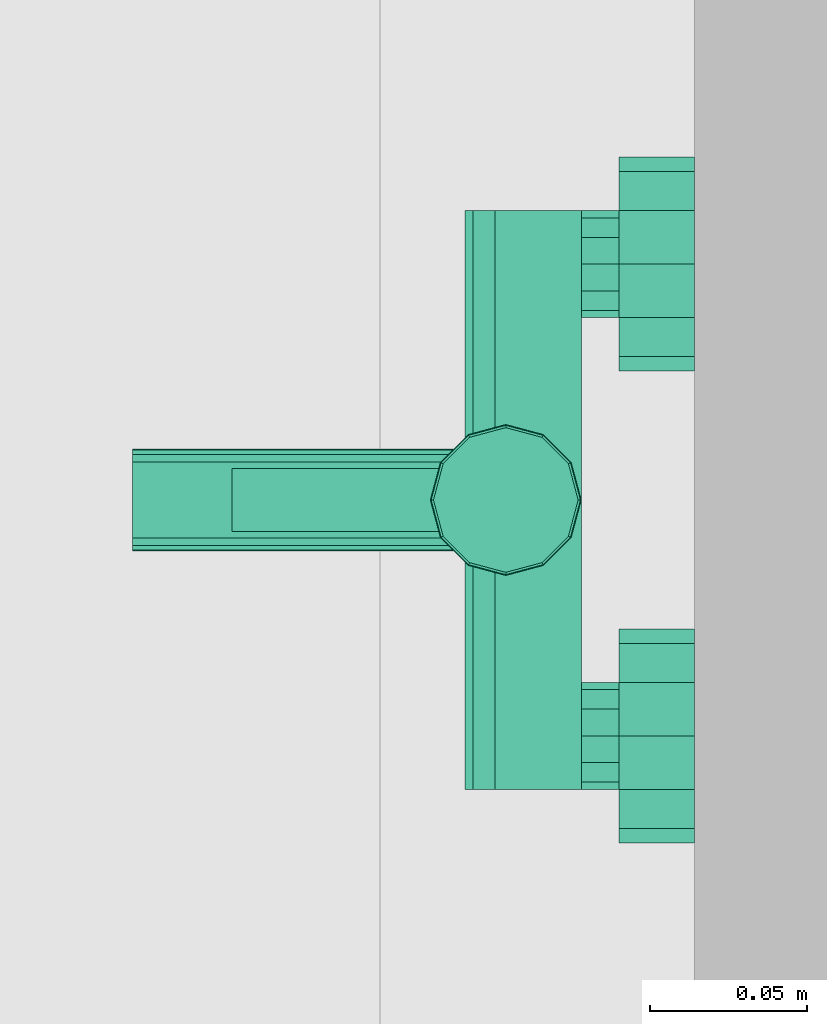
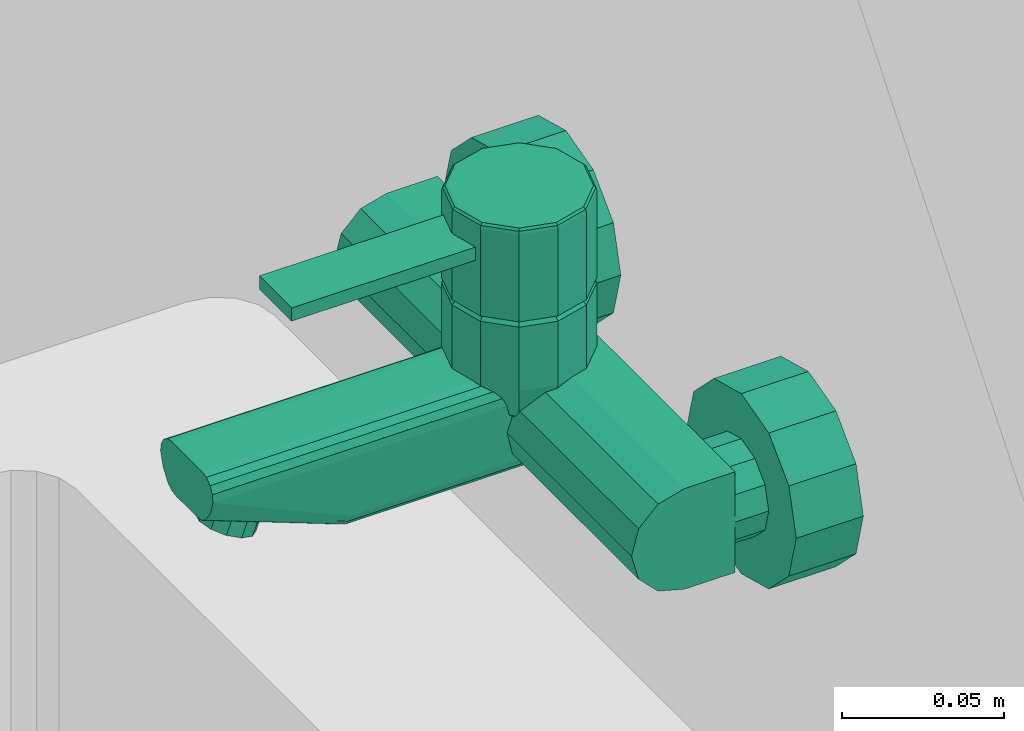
# One storey, part 248 of 301: 1 flow terminal.
"""IFC2X3 building model written with IfcOpenShell, lengths in millimetres."""

from ifc_helpers import new_model, entity, si_unit, converted_unit, derived_unit, money_unit, direction, frame, origin_with_axes, place, context, subcontext, project, spatial, faceted_brep, source, transform, mapped, type_object, element, save


model = new_model("IFC2X3")

# Units and contexts
model_context = context("Model", 3, precision=0.01, world=origin_with_axes(), true_north=direction((0.0, 1.0)))
body_context = subcontext(model_context, "Body", "Model", "MODEL_VIEW")
ifc_project = project(units=[si_unit("LENGTHUNIT", "METRE", prefix="MILLI"), si_unit("AREAUNIT", "SQUARE_METRE"), si_unit("VOLUMEUNIT", "CUBIC_METRE"), converted_unit("PLANEANGLEUNIT", "DEGREE", entity("IfcPlaneAngleMeasure", 0.0174532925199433), si_unit("PLANEANGLEUNIT", "RADIAN"), dimensions=[0, 0, 0, 0, 0, 0, 0]), money_unit("EUR"), converted_unit("TIMEUNIT", "Year", entity("IfcTimeMeasure", 31557600.0), si_unit("TIMEUNIT", "SECOND"), dimensions=[0, 0, 1, 0, 0, 0, 0]), si_unit("MASSUNIT", "GRAM", prefix="KILO"), si_unit("THERMODYNAMICTEMPERATUREUNIT", "DEGREE_CELSIUS"), si_unit("LUMINOUSINTENSITYUNIT", "LUMEN"), si_unit("ENERGYUNIT", "JOULE", prefix="MEGA"), derived_unit("THERMALCONDUCTANCEUNIT", [(si_unit("POWERUNIT", "WATT"), 1), (si_unit("LENGTHUNIT", "METRE"), -1), (si_unit("THERMODYNAMICTEMPERATUREUNIT", "KELVIN"), -1)]), derived_unit("SPECIFICHEATCAPACITYUNIT", [(si_unit("ENERGYUNIT", "JOULE"), 1), (si_unit("MASSUNIT", "GRAM", prefix="KILO"), -1), (si_unit("THERMODYNAMICTEMPERATUREUNIT", "KELVIN"), -1)]), derived_unit("MASSDENSITYUNIT", [(si_unit("MASSUNIT", "GRAM", prefix="KILO"), 1), (si_unit("VOLUMEUNIT", "CUBIC_METRE"), -1)])], contexts=[model_context])

# Site, building, storey
site_placement = place(None, frame((0.0, 0.0, 8650.0), z_axis=(0.0, 0.0, 1.0), x_axis=(1.0, 0.0, 0.0)))
site = spatial("IfcSite", under=ifc_project, at=site_placement, Name="43301:001:0844", CompositionType="ELEMENT")
building_placement = place(site_placement, origin_with_axes())
building = spatial("IfcBuilding", under=site, at=building_placement, Name="Kuressaare Ametikooli tuulikute mehaanikute õppekorpus", CompositionType="ELEMENT")
storey_placement = place(building_placement, origin_with_axes())
storey = spatial("IfcBuildingStorey", under=building, at=storey_placement, Name="1.korrus", CompositionType="ELEMENT", Elevation=0.0)

# Flow terminal
sanitary_terminal_type = type_object("IfcSanitaryTerminalType", Name="Wall Mounted Tap 27", PredefinedType="NOTDEFINED")
shared_shape = source(origin_with_axes(), body_context, "Body", "Brep", [
    faceted_brep([(-45.55513627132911, 0.0, 1033.0), (-58.00000000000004, 0.0, 1020.555136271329), (-75.00000000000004, 0.0, 1016.0), (-92.00000000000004, 0.0, 1020.555136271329), (-104.4448637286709, 0.0, 1033.0), (-109.0, 0.0, 1050.0), (-104.4448637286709, 0.0, 1067.0), (-92.0, 0.0, 1079.444863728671), (-75.0, 0.0, 1084.0), (-58.0, 0.0, 1079.444863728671), (-45.5551362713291, 0.0, 1067.0), (-41.00000000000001, 0.0, 1050.0), (-45.55513627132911, -24.0, 1033.0), (-58.00000000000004, -24.0, 1020.555136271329), (-75.00000000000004, -24.0, 1016.0), (-92.00000000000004, -24.0, 1020.555136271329), (-104.4448637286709, -24.0, 1033.0), (-109.0, -24.0, 1050.0), (-104.4448637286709, -24.0, 1067.0), (-92.0, -24.0, 1079.444863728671), (-75.0, -24.0, 1084.0), (-58.0, -24.0, 1079.444863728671), (-45.5551362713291, -24.0, 1067.0), (-41.00000000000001, -24.0, 1050.0)], [[[0, 1, 2, 3, 4, 5, 6, 7, 8, 9, 10, 11]], [[1, 0, 12, 13]], [[2, 1, 13, 14]], [[3, 2, 14, 15]], [[4, 3, 15, 16]], [[5, 4, 16, 17]], [[6, 5, 17, 18]], [[7, 6, 18, 19]], [[8, 7, 19, 20]], [[9, 8, 20, 21]], [[10, 9, 21, 22]], [[11, 10, 22, 23]], [[0, 11, 23, 12]], [[12, 23, 22, 21, 20, 19, 18, 17, 16, 15, 14, 13]]]),
    faceted_brep([(-60.27756813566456, -24.0, 1041.5), (-66.50000000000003, -24.0, 1035.277568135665), (-75.00000000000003, -24.0, 1033.0), (-83.50000000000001, -24.0, 1035.277568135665), (-89.72243186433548, -24.0, 1041.5), (-92.00000000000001, -24.0, 1050.0), (-89.72243186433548, -24.0, 1058.5), (-83.5, -24.0, 1064.722431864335), (-75.00000000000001, -24.0, 1067.0), (-66.5, -24.0, 1064.722431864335), (-60.27756813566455, -24.0, 1058.5), (-58.00000000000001, -24.0, 1050.0), (-60.27756813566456, -36.00000000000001, 1041.5), (-66.50000000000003, -36.00000000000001, 1035.277568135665), (-75.00000000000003, -36.00000000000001, 1033.0), (-83.50000000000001, -36.00000000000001, 1035.277568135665), (-89.72243186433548, -36.00000000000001, 1041.5), (-92.00000000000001, -36.00000000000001, 1050.0), (-89.72243186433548, -36.00000000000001, 1058.5), (-83.5, -36.0, 1064.722431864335), (-75.00000000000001, -36.0, 1067.0), (-66.5, -36.0, 1064.722431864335), (-60.27756813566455, -36.00000000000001, 1058.5), (-58.00000000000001, -36.00000000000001, 1050.0)], [[[0, 1, 2, 3, 4, 5, 6, 7, 8, 9, 10, 11]], [[1, 0, 12, 13]], [[2, 1, 13, 14]], [[3, 2, 14, 15]], [[4, 3, 15, 16]], [[5, 4, 16, 17]], [[6, 5, 17, 18]], [[7, 6, 18, 19]], [[8, 7, 19, 20]], [[9, 8, 20, 21]], [[10, 9, 21, 22]], [[11, 10, 22, 23]], [[0, 11, 23, 12]], [[12, 23, 22, 21, 20, 19, 18, 17, 16, 15, 14, 13]]]),
    faceted_brep([(45.55513627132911, 0.0, 1033.0), (41.00000000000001, 0.0, 1050.0), (45.5551362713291, 0.0, 1067.0), (58.0, 0.0, 1079.444863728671), (75.0, 0.0, 1084.0), (92.0, 0.0, 1079.444863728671), (104.4448637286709, 0.0, 1067.0), (109.0, 0.0, 1050.0), (104.4448637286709, 0.0, 1033.0), (92.00000000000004, 0.0, 1020.555136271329), (75.00000000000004, 0.0, 1016.0), (58.00000000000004, 0.0, 1020.555136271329), (45.55513627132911, -24.0, 1033.0), (41.00000000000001, -24.0, 1050.0), (45.5551362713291, -24.0, 1067.0), (58.0, -24.0, 1079.444863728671), (75.0, -24.0, 1084.0), (92.0, -24.0, 1079.444863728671), (104.4448637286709, -24.0, 1067.0), (109.0, -24.0, 1050.0), (104.4448637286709, -24.0, 1033.0), (92.00000000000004, -24.0, 1020.555136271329), (75.00000000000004, -24.0, 1016.0), (58.00000000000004, -24.0, 1020.555136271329)], [[[0, 1, 2, 3, 4, 5, 6, 7, 8, 9, 10, 11]], [[0, 12, 13, 1]], [[1, 13, 14, 2]], [[2, 14, 15, 3]], [[3, 15, 16, 4]], [[4, 16, 17, 5]], [[5, 17, 18, 6]], [[6, 18, 19, 7]], [[7, 19, 20, 8]], [[8, 20, 21, 9]], [[9, 21, 22, 10]], [[10, 22, 23, 11]], [[11, 23, 12, 0]], [[12, 23, 22, 21, 20, 19, 18, 17, 16, 15, 14, 13]]]),
    faceted_brep([(60.27756813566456, -24.0, 1041.5), (58.00000000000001, -24.0, 1050.0), (60.27756813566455, -24.0, 1058.5), (66.5, -24.0, 1064.722431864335), (75.00000000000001, -24.0, 1067.0), (83.5, -24.0, 1064.722431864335), (89.72243186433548, -24.0, 1058.5), (92.00000000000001, -24.0, 1050.0), (89.72243186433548, -24.0, 1041.5), (83.50000000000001, -24.0, 1035.277568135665), (75.00000000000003, -24.0, 1033.0), (66.50000000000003, -24.0, 1035.277568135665), (60.27756813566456, -36.00000000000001, 1041.5), (58.00000000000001, -36.00000000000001, 1050.0), (60.27756813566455, -36.00000000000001, 1058.5), (66.5, -36.0, 1064.722431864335), (75.00000000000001, -36.0, 1067.0), (83.5, -36.0, 1064.722431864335), (89.72243186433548, -36.00000000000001, 1058.5), (92.00000000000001, -36.00000000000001, 1050.0), (89.72243186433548, -36.00000000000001, 1041.5), (83.50000000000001, -36.00000000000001, 1035.277568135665), (75.00000000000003, -36.00000000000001, 1033.0), (66.50000000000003, -36.00000000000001, 1035.277568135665)], [[[0, 1, 2, 3, 4, 5, 6, 7, 8, 9, 10, 11]], [[0, 12, 13, 1]], [[1, 13, 14, 2]], [[2, 14, 15, 3]], [[3, 15, 16, 4]], [[4, 16, 17, 5]], [[5, 17, 18, 6]], [[6, 18, 19, 7]], [[7, 19, 20, 8]], [[8, 20, 21, 9]], [[9, 21, 22, 10]], [[10, 22, 23, 11]], [[11, 23, 12, 0]], [[12, 23, 22, 21, 20, 19, 18, 17, 16, 15, 14, 13]]]),
    faceted_brep([(22.39230484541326, -54.0, 1069.0), (23.56921938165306, -59.99999999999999, 1067.392304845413), (22.3801085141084, -63.5, 1066.454482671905), (92.0, -63.5, 1066.454482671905), (92.0, -54.0, 1069.0), (24.0, -59.99999999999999, 1069.0), (20.78460969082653, -72.0, 1069.0), (18.42264973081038, -70.63632178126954, 1058.821367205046), (18.65321248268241, -70.45448267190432, 1059.5), (92.0, -70.45448267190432, 1059.5), (92.0, -36.00000000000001, 1031.0), (92.0, -36.00000000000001, 1069.0), (92.0, -73.00000000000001, 1050.0), (92.0, -70.45448267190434, 1040.5), (92.0, -63.5, 1033.545517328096), (92.0, -54.00000000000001, 1031.0), (20.78460969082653, -47.99999999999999, 1069.0), (0.0, -36.00000000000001, 1069.0), (12.0, -39.21539030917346, 1069.0), (20.78460969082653, -47.99999999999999, 1093.0), (24.0, -59.99999999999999, 1093.0), (20.78460969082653, -72.0, 1093.0), (17.26794919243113, -71.12435565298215, 1057.0), (12.00000000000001, -80.78460969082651, 1069.0), (11.92314238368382, -80.65148839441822, 1068.426326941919), (12.07189135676, -80.49116546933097, 1068.39470631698), (14.42686544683, -77.50984837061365, 1066.68350539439), (15.88213414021, -75.13176694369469, 1064.16233412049), (16.18602173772, -73.76818909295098, 1061.26720650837), (15.73684210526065, -72.65546274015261, 1057.0), (15.6314139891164, -71.39272474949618, 1055.998432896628), (14.99999999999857, -73.00000000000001, 1050.0), (-92.0, -36.00000000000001, 1031.0), (-92.0, -36.00000000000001, 1069.0), (14.00000000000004, -70.45448267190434, 1040.5), (12.93483876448, -64.77581392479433, 1034.82133125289), (11.95567316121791, -63.5, 1033.545517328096), (13.65970594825, -67.22168918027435, 1037.26720650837), (9.206486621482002, -55.73480068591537, 1031.46483844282), (6.698167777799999, -54.00000000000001, 1031.0), (11.38167317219, -60.70880215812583, 1032.79761812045), (-6.698167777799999, -54.00000000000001, 1031.0), (-92.0, -54.00000000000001, 1031.0), (6.698167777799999, -128.7, 1031.0), (-6.698167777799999, -128.7, 1031.0), (0.0, -36.00000000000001, 1093.0), (12.0, -39.21539030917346, 1093.0), (19.05255888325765, -48.99999999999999, 1095.0), (22.0, -59.99999999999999, 1095.0), (19.05255888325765, -71.0, 1095.0), (12.00000000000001, -80.78460969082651, 1093.0), (9.224483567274, -81.52830707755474, 1069.0), (9.224483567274, -178.7, 1069.0), (12.07189135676, -178.7, 1068.39470631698), (14.42686544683, -178.7, 1066.68350539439), (15.88213414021, -178.7, 1064.16233412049), (16.18602173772, -178.7, 1061.26720650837), (13.65970594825, -128.7, 1037.26720650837), (-92.0, -54.0, 1069.0), (-92.0, -63.5, 1033.545517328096), (-92.0, -70.45448267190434, 1040.5), (-92.0, -73.00000000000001, 1050.0), (-92.0, -70.45448267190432, 1059.5), (-92.0, -63.5, 1066.454482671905), (-12.00000000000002, -39.21539030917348, 1069.0), (-22.39230484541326, -54.0, 1069.0), (-20.78460969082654, -48.00000000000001, 1069.0), (12.93483876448, -128.7, 1034.82133125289), (11.38167317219, -128.7, 1032.79761812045), (9.206486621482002, -128.7, 1031.46483844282), (-11.38167317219, -60.70880215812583, 1032.79761812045), (-11.95567316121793, -63.5, 1033.545517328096), (-9.206486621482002, -55.73480068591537, 1031.46483844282), (-6.698167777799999, -156.6122297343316, 1041.606647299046), (6.698167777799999, -156.6122297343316, 1041.606647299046), (5.000000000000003, -155.02481037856, 1041.003427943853), (0.0, -153.7724378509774, 1040.527526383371), (-4.999999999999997, -155.02481037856, 1041.003427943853), (-9.206486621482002, -128.7, 1031.46483844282), (-12.00000000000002, -39.21539030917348, 1093.0), (0.0, -38.00000000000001, 1095.0), (11.0, -40.94744111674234, 1095.0), (-20.78460969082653, -47.99999999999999, 1095.0), (-12.0, -39.21539030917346, 1095.0), (0.0, -36.00000000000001, 1095.0), (12.00000000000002, -39.21539030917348, 1095.0), (20.78460969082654, -48.00000000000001, 1095.0), (24.0, -60.00000000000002, 1095.0), (20.78460969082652, -72.00000000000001, 1095.0), (11.99999999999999, -80.78460969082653, 1095.0), (0.0, -83.99999999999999, 1095.0), (-12.00000000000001, -80.78460969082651, 1095.0), (-20.78460969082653, -72.0, 1095.0), (-24.0, -59.99999999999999, 1095.0), (11.00000000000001, -79.05255888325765, 1095.0), (-11.00000000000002, -40.94744111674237, 1095.0), (-19.05255888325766, -49.00000000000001, 1095.0), (-22.0, -60.00000000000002, 1095.0), (-19.05255888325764, -71.00000000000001, 1095.0), (-10.99999999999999, -79.05255888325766, 1095.0), (0.0, -81.99999999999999, 1095.0), (0.0, -83.99999999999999, 1093.0), (0.0, -83.99999999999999, 1069.0), (-15.88213414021, -178.7, 1064.16233412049), (-16.18602173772, -178.7, 1061.26720650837), (-14.65970594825, -178.7, 1056.26720650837), (-12.93483876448, -178.7, 1053.82133125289), (-11.38167317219, -178.7, 1051.79761812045), (-9.206486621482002, -178.7, 1050.46483844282), (-6.698167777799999, -178.7, 1050.0), (6.698167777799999, -178.7, 1050.0), (9.206486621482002, -178.7, 1050.46483844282), (11.38167317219, -178.7, 1051.79761812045), (12.93483876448, -178.7, 1053.82133125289), (14.65970594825, -178.7, 1056.26720650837), (-9.224483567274, -178.7, 1069.0), (-12.07189135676, -178.7, 1068.39470631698), (-14.42686544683, -178.7, 1066.68350539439), (-9.224483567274, -81.52830707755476, 1069.0), (-13.65970594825, -67.22168918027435, 1037.26720650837), (-14.00000000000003, -70.45448267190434, 1040.5), (-12.93483876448, -64.77581392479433, 1034.82133125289), (-14.99999999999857, -73.00000000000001, 1050.0), (-18.42264973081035, -70.63632178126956, 1058.821367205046), (-18.65321248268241, -70.45448267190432, 1059.5), (-15.63141398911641, -71.39272474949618, 1055.998432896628), (-17.26794919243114, -71.12435565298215, 1057.0), (-22.38010851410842, -63.5, 1066.454482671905), (-23.56921938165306, -60.00000000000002, 1067.392304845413), (-24.0, -60.00000000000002, 1069.0), (-24.0, -60.00000000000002, 1093.0), (-20.78460969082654, -48.00000000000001, 1093.0), (9.206486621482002, -160.1976250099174, 1043.433935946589), (8.660254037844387, -158.3256179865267, 1042.621346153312), (9.206486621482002, -165.7342214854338, 1045.537842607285), (10.0, -162.8044792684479, 1044.910741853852), (-11.38167317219, -128.7, 1032.79761812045), (-12.93483876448, -128.7, 1034.82133125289), (-9.206486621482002, -160.1976250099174, 1043.433935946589), (-8.660254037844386, -158.3256179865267, 1042.621346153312), (8.660254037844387, -160.222444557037, 1037.629697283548), (5.000000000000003, -156.8008991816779, 1036.329510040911), (0.0, -155.5485266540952, 1035.85360848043), (-4.999999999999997, -156.8008991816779, 1036.329510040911), (-8.660254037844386, -160.222444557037, 1037.629697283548), (-20.78460969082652, -47.99999999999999, 1128.0), (-12.0, -39.21539030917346, 1128.0), (0.0, -36.00000000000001, 1128.0), (12.00000000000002, -39.21539030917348, 1128.0), (20.78460969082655, -48.00000000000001, 1128.0), (24.0, -60.00000000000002, 1128.0), (20.78460969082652, -72.00000000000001, 1128.0), (11.99999999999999, -80.78460969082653, 1128.0), (0.0, -83.99999999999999, 1128.0), (0.0, -83.99999999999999, 1120.0), (10.0, -81.32050807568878, 1120.0), (10.0, -81.32050807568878, 1115.0), (0.0, -83.99999999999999, 1115.0), (-10.0, -81.32050807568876, 1115.0), (-10.0, -81.32050807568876, 1120.0), (-12.00000000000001, -80.78460969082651, 1128.0), (-20.78460969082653, -72.0, 1128.0), (-24.0, -59.99999999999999, 1128.0), (-20.78460969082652, -72.00000000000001, 1093.0), (-11.99999999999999, -80.78460969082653, 1093.0), (-11.99999999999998, -80.78460969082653, 1069.0), (-15.88213414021, -75.1317669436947, 1064.16233412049), (-16.18602173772, -73.76818909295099, 1061.26720650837), (-16.18602173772, -128.7, 1061.26720650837), (-13.65970594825, -128.7, 1037.26720650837), (-10.0, -162.8044792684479, 1044.910741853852), (-9.206486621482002, -165.7342214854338, 1045.537842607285), (-8.66025403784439, -167.6734537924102, 1046.173523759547), (-6.698167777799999, -169.6283175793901, 1046.552760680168), (0.0, -172.4681094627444, 1047.631881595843), (4.999999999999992, -171.2157369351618, 1047.155980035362), (6.698167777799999, -169.6283175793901, 1046.552760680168), (-5.000000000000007, -171.2157369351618, 1047.155980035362), (8.660254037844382, -167.6734537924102, 1046.173523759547), (-11.92314238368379, -80.65148839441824, 1068.426326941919), (-12.07189135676, -80.49116546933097, 1068.39470631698), (-14.42686544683, -77.50984837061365, 1066.68350539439), (-15.73684210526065, -72.65546274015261, 1057.0), (-20.78460969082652, -72.00000000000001, 1069.0), (10.0, -164.8963624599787, 1039.405786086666), (8.660254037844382, -169.5702803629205, 1041.181874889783), (-10.0, -164.8963624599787, 1039.405786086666), (4.999999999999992, -172.9918257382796, 1042.48206213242), (0.0, -174.2441982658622, 1042.957963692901), (-5.000000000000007, -172.9918257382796, 1042.48206213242), (-8.66025403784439, -169.5702803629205, 1041.181874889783), (-20.55255888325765, -48.13397459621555, 1129.0), (-11.86602540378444, -39.44744111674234, 1129.0), (0.0, -36.26794919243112, 1129.0), (11.86602540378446, -39.44744111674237, 1129.0), (20.55255888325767, -48.13397459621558, 1129.0), (23.73205080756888, -60.00000000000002, 1129.0), (20.55255888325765, -71.86602540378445, 1129.0), (11.86602540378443, -80.55255888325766, 1129.0), (10.0, -147.0, 1120.0), (-10.0, -147.0, 1120.0), (10.0, -147.0, 1115.0), (-10.0, -147.0, 1115.0), (0.0, -83.73205080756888, 1129.0), (-11.86602540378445, -80.55255888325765, 1129.0), (-20.55255888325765, -71.86602540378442, 1129.0), (-23.73205080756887, -59.99999999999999, 1129.0), (-19.91858428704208, -48.49999999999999, 1129.732050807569), (-11.5, -40.08141571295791, 1129.732050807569), (0.0, -37.00000000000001, 1129.732050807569), (11.50000000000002, -40.08141571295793, 1129.732050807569), (19.9185842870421, -48.50000000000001, 1129.732050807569), (23.0, -60.00000000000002, 1129.732050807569), (19.91858428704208, -71.50000000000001, 1129.732050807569), (11.49999999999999, -79.9185842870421, 1129.732050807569), (0.0, -82.99999999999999, 1129.732050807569), (-11.50000000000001, -79.91858428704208, 1129.732050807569), (-19.91858428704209, -71.5, 1129.732050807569), (-23.0, -59.99999999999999, 1129.732050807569), (-19.05255888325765, -48.99999999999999, 1130.0), (-11.0, -40.94744111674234, 1130.0), (0.0, -38.00000000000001, 1130.0), (11.00000000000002, -40.94744111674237, 1130.0), (19.05255888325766, -49.00000000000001, 1130.0), (22.0, -60.00000000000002, 1130.0), (19.05255888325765, -71.00000000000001, 1130.0), (10.99999999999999, -79.05255888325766, 1130.0), (0.0, -81.99999999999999, 1130.0), (-11.00000000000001, -79.05255888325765, 1130.0), (-19.05255888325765, -71.0, 1130.0), (-22.0, -59.99999999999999, 1130.0), (0.0, -60.0, 1130.0)], [[[0, 1, 2, 3, 4]], [[1, 0, 5]], [[2, 1, 5, 6, 7, 8]], [[2, 8, 9, 3]], [[10, 11, 4, 3, 9, 12, 13, 14, 15]], [[16, 0, 4, 11, 17, 18]], [[0, 16, 19, 20, 5]], [[20, 21, 6, 5]], [[22, 7, 6, 23, 24, 25, 26, 27, 28, 29]], [[30, 31, 12, 9, 8, 7, 22]], [[10, 32, 33, 17, 11]], [[31, 34, 13, 12]], [[35, 36, 14, 13, 34, 37]], [[38, 39, 15, 14, 36, 40]], [[41, 42, 32, 10, 15, 39, 43, 44]], [[18, 17, 45, 46]], [[16, 18, 46, 19]], [[19, 47, 48, 20]], [[20, 48, 49, 21]], [[21, 50, 23, 6]], [[23, 51, 24]], [[52, 53, 25, 24, 51]], [[53, 54, 26, 25]], [[54, 55, 27, 26]], [[56, 28, 27, 55]], [[31, 30, 29, 28, 56, 57, 37, 34]], [[30, 22, 29]], [[58, 33, 32, 42, 59, 60, 61, 62, 63]], [[64, 17, 33, 58, 65, 66]], [[36, 35, 67, 68, 40]], [[35, 37, 57, 67]], [[39, 38, 69, 43]], [[38, 40, 68, 69]], [[70, 71, 59, 42, 41, 72]], [[73, 44, 43, 74, 75, 76, 77]], [[72, 41, 44, 78]], [[17, 64, 79, 45]], [[45, 80, 81, 46]], [[46, 81, 47, 19]], [[82, 83, 84, 85, 86, 87, 88, 89, 90, 91, 92, 93], [94, 49, 48, 47, 81, 80, 95, 96, 97, 98, 99, 100]], [[21, 49, 94, 50]], [[101, 102, 51, 23, 50]], [[103, 104, 105, 106, 107, 108, 109, 110, 111, 112, 113, 114, 56, 55, 54, 53, 52, 115, 116, 117]], [[115, 52, 51, 102, 118]], [[56, 114, 57]], [[119, 120, 60, 59, 71, 121]], [[120, 122, 61, 60]], [[123, 124, 62, 61, 122, 125, 126]], [[124, 127, 63, 62]], [[128, 65, 58, 63, 127]], [[66, 65, 129, 130, 131]], [[64, 66, 131, 79]], [[112, 68, 67, 113]], [[114, 67, 57]], [[74, 43, 69, 132, 133]], [[132, 69, 68, 112, 111, 134, 135]], [[71, 70, 136, 137, 121]], [[70, 72, 78, 136]], [[138, 78, 44, 73, 139]], [[75, 74, 133, 140, 141]], [[142, 76, 75, 141]], [[143, 77, 76, 142]], [[139, 73, 77, 143, 144]], [[79, 95, 80, 45]], [[83, 82, 145, 146]], [[84, 83, 146, 147]], [[85, 84, 147, 148]], [[86, 85, 148, 149]], [[87, 86, 149, 150]], [[88, 87, 150, 151]], [[89, 88, 151, 152]], [[153, 154, 155, 156, 157, 90, 89, 152]], [[158, 159, 154, 153, 160, 91, 90, 157]], [[92, 91, 160, 161]], [[93, 92, 161, 162]], [[82, 93, 162, 145]], [[131, 96, 95, 79]], [[130, 97, 96, 131]], [[163, 98, 97, 130]], [[164, 99, 98, 163]], [[101, 100, 99, 164]], [[50, 94, 100, 101]], [[165, 118, 102, 101, 164]], [[104, 103, 166, 167, 168]], [[105, 104, 168]], [[106, 105, 169]], [[106, 137, 136, 107]], [[107, 136, 78, 138, 170, 171, 108]], [[171, 172, 173, 109, 108]], [[174, 175, 176, 110, 109, 173, 177]], [[176, 178, 134, 111, 110]], [[114, 113, 67]], [[116, 115, 118, 179, 180]], [[117, 116, 180, 181]], [[103, 117, 181, 166]], [[120, 119, 169, 168, 167, 182, 125, 122]], [[119, 121, 137, 169]], [[124, 123, 183, 129, 128, 127]], [[126, 125, 182]], [[123, 126, 182, 167, 166, 181, 180, 179, 165, 183]], [[65, 128, 129]], [[163, 130, 129, 183]], [[133, 132, 135, 184, 140]], [[135, 134, 178, 185, 184]], [[170, 138, 139, 144, 186]], [[140, 184, 185, 187, 188, 189, 190, 186, 144, 143, 142, 141]], [[146, 145, 191, 192]], [[147, 146, 192, 193]], [[148, 147, 193, 194]], [[149, 148, 194, 195]], [[150, 149, 195, 196]], [[151, 150, 196, 197]], [[152, 151, 197, 198]], [[199, 155, 154, 159, 200]], [[201, 156, 155, 199]], [[158, 157, 156, 201, 202]], [[153, 152, 198, 203]], [[200, 159, 158, 202]], [[160, 153, 203, 204]], [[161, 160, 204, 205]], [[162, 161, 205, 206]], [[145, 162, 206, 191]], [[164, 163, 183, 165]], [[165, 179, 118]], [[105, 168, 169]], [[106, 169, 137]], [[172, 171, 170, 186, 190]], [[177, 173, 172, 190, 189]], [[187, 175, 174, 188]], [[178, 176, 175, 187, 185]], [[188, 174, 177, 189]], [[192, 191, 207, 208]], [[193, 192, 208, 209]], [[194, 193, 209, 210]], [[195, 194, 210, 211]], [[196, 195, 211, 212]], [[197, 196, 212, 213]], [[198, 197, 213, 214]], [[199, 200, 202, 201]], [[203, 198, 214, 215]], [[204, 203, 215, 216]], [[205, 204, 216, 217]], [[206, 205, 217, 218]], [[191, 206, 218, 207]], [[208, 207, 219, 220]], [[209, 208, 220, 221]], [[210, 209, 221, 222]], [[211, 210, 222, 223]], [[212, 211, 223, 224]], [[213, 212, 224, 225]], [[214, 213, 225, 226]], [[215, 214, 226, 227]], [[216, 215, 227, 228]], [[217, 216, 228, 229]], [[218, 217, 229, 230]], [[207, 218, 230, 219]], [[220, 219, 231]], [[221, 220, 231]], [[222, 221, 231]], [[223, 222, 231]], [[224, 223, 231]], [[225, 224, 231]], [[226, 225, 231]], [[227, 226, 231]], [[228, 227, 231]], [[229, 228, 231]], [[230, 229, 231]], [[219, 230, 231]]]),
])
flow_terminal_placement = place(storey_placement, frame((100977.9522847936, 19064.79367841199, 0.0), z_axis=(0.0, 0.0, 1.0), x_axis=(0.0, -1.0, 0.0)))
element("IfcFlowTerminal", 1, at=flow_terminal_placement, inside=storey, type_object=sanitary_terminal_type, Name="V", context=body_context, shape_type="MappedRepresentation", body=[
    mapped(shared_shape, transform((0.0, 0.0, 0.0))),
])

save(model, "model.ifc")
